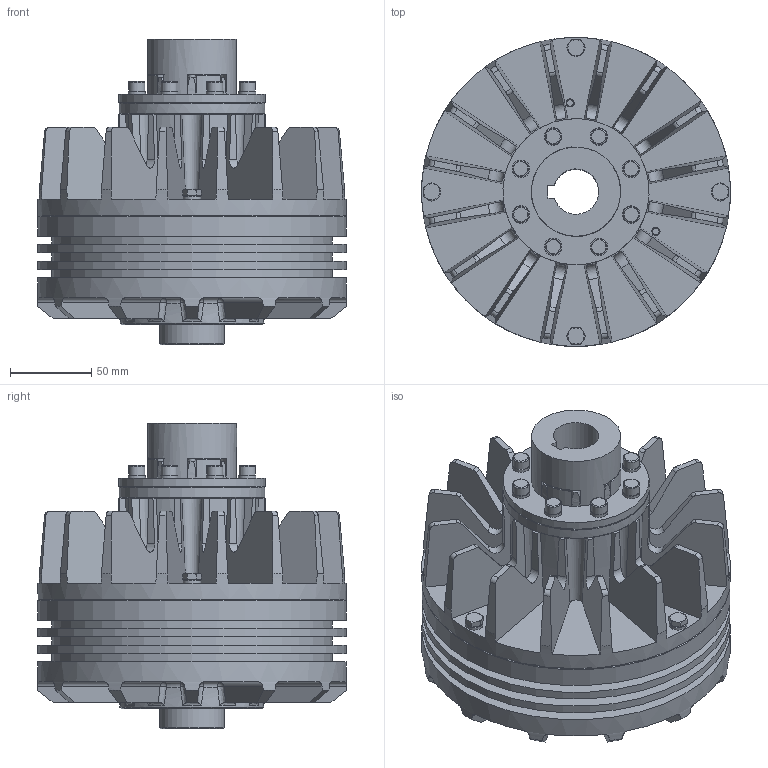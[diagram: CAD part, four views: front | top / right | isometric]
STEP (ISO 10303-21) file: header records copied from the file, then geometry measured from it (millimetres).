
FILE_DESCRIPTION(/* description */ (''),/* implementation_level */ '2;1');
FILE_NAME(/* name */ 'C:\Users\vlakrc01\Desktop\STP\88597.stp',/* time_stamp */ '2017-11-30T14:09:23+01:00',/* author */ ('vlakrc01'),/* organization */ ('Hillmar Industries Ltd.'),/* preprocessor_version */ 'ST-DEVELOPER v16.1',/* originating_system */ 'Autodesk Inventor 2016',/* authorisation */ '');
FILE_SCHEMA (('AUTOMOTIVE_DESIGN { 1 0 10303 214 3 1 1 }'));
Length unit declared in the file: millimetre
Products named in the file (1): 88597_Shrinkwrap_1
Bounding box: 190.5 x 190.5 x 188.42 mm (x, y, z)
Volume: 2325758.8 mm3; surface area: 255601.3 mm2
Topology: 1 solids, 1 shells, 595 faces, 1614 edges, 1025 vertices
Faces by surface type: plane 281, cylinder 153, bspline 64, cone 41, torus 32, sphere 24
Full cylindrical faces by diameter (mm): 4 x4, 5 x2, 8.7 x4, 10 x8, 10.8 x12, 40.002 x1, 55 x1, 88.9 x1, 90 x1, 90.17 x1, 172.72 x3, 190.5 x5
Entity records: 21646 total; most frequent: CARTESIAN_POINT 6592, ORIENTED_EDGE 3010, DIRECTION 2995, EDGE_CURVE 1505, AXIS2_PLACEMENT_3D 1209, VERTEX_POINT 993, EDGE_LOOP 726, FACE_OUTER_BOUND 595
